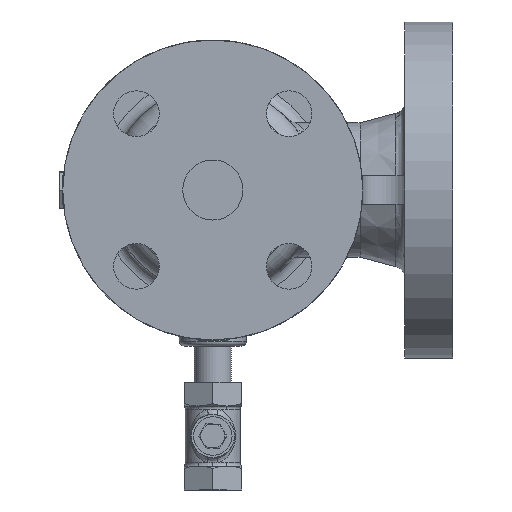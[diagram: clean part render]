
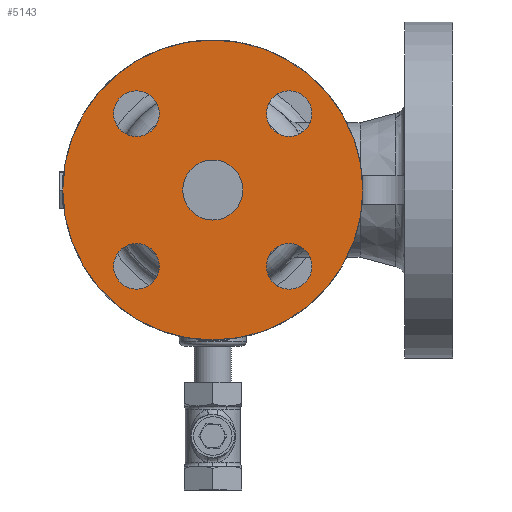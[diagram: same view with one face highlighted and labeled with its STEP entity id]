
A CAD part, front view. The second image highlights one B-rep face of the part: STEP entity #5143.
In plain terms, the highlighted planar face has unit normal (0, -1, 0).
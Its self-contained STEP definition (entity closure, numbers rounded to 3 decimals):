
#141 = ORIENTED_EDGE ( 'NONE', *, *, #7094, .F. ) ;
#226 = DIRECTION ( 'NONE',  ( 0., -1., 0. ) ) ;
#338 = CIRCLE ( 'NONE', #3180, 62.5 ) ;
#359 = CARTESIAN_POINT ( 'NONE',  ( 31.82, -100., 31.82 ) ) ;
#488 = AXIS2_PLACEMENT_3D ( 'NONE', #2449, #11906, #9716 ) ;
#551 = ORIENTED_EDGE ( 'NONE', *, *, #2672, .F. ) ;
#707 = DIRECTION ( 'NONE',  ( 0., -1., 0. ) ) ;
#737 = CIRCLE ( 'NONE', #2473, 9.5 ) ;
#746 = EDGE_CURVE ( 'NONE', #2275, #4251, #6073, .T. ) ;
#807 = AXIS2_PLACEMENT_3D ( 'NONE', #1561, #1624, #2651 ) ;
#1016 = DIRECTION ( 'NONE',  ( 0., -1., 0. ) ) ;
#1090 = EDGE_CURVE ( 'NONE', #7789, #2308, #9557, .T. ) ;
#1098 = VERTEX_POINT ( 'NONE', #10050 ) ;
#1355 = ORIENTED_EDGE ( 'NONE', *, *, #7432, .F. ) ;
#1561 = CARTESIAN_POINT ( 'NONE',  ( 0., -100., 0. ) ) ;
#1624 = DIRECTION ( 'NONE',  ( 0., 1., 0. ) ) ;
#1716 = DIRECTION ( 'NONE',  ( 0., 1., 0. ) ) ;
#2069 = PLANE ( 'NONE',  #6334 ) ;
#2110 = VERTEX_POINT ( 'NONE', #9710 ) ;
#2272 = FACE_BOUND ( 'NONE', #3418, .T. ) ;
#2275 = VERTEX_POINT ( 'NONE', #6092 ) ;
#2308 = VERTEX_POINT ( 'NONE', #3000 ) ;
#2449 = CARTESIAN_POINT ( 'NONE',  ( -31.82, -100., 31.82 ) ) ;
#2473 = AXIS2_PLACEMENT_3D ( 'NONE', #5942, #11126, #7171 ) ;
#2534 = DIRECTION ( 'NONE',  ( 0., 0., -1. ) ) ;
#2574 = EDGE_LOOP ( 'NONE', ( #1355, #11741 ) ) ;
#2651 = DIRECTION ( 'NONE',  ( -1., 0., 0. ) ) ;
#2672 = EDGE_CURVE ( 'NONE', #5066, #7368, #11122, .T. ) ;
#2761 = DIRECTION ( 'NONE',  ( 1., 0., 0. ) ) ;
#2842 = AXIS2_PLACEMENT_3D ( 'NONE', #10394, #13545, #10463 ) ;
#3000 = CARTESIAN_POINT ( 'NONE',  ( 62.5, -100., 0. ) ) ;
#3180 = AXIS2_PLACEMENT_3D ( 'NONE', #12066, #1716, #3982 ) ;
#3265 = DIRECTION ( 'NONE',  ( 1., 0., 0. ) ) ;
#3367 = FACE_BOUND ( 'NONE', #5480, .T. ) ;
#3403 = ORIENTED_EDGE ( 'NONE', *, *, #5277, .F. ) ;
#3418 = EDGE_LOOP ( 'NONE', ( #9641, #7874 ) ) ;
#3487 = ORIENTED_EDGE ( 'NONE', *, *, #11525, .F. ) ;
#3528 = CARTESIAN_POINT ( 'NONE',  ( 41.32, -100., 31.82 ) ) ;
#3774 = CARTESIAN_POINT ( 'NONE',  ( -12.5, -100., 0. ) ) ;
#3827 = EDGE_CURVE ( 'NONE', #4251, #2275, #10697, .T. ) ;
#3982 = DIRECTION ( 'NONE',  ( -1., 0., 0. ) ) ;
#4092 = CARTESIAN_POINT ( 'NONE',  ( -31.82, -100., 31.82 ) ) ;
#4251 = VERTEX_POINT ( 'NONE', #3774 ) ;
#4337 = DIRECTION ( 'NONE',  ( 1., 0., 0. ) ) ;
#4368 = CIRCLE ( 'NONE', #5913, 9.5 ) ;
#4574 = VERTEX_POINT ( 'NONE', #11359 ) ;
#4615 = CIRCLE ( 'NONE', #5944, 9.5 ) ;
#4889 = DIRECTION ( 'NONE',  ( 1., 0., 0. ) ) ;
#5066 = VERTEX_POINT ( 'NONE', #8109 ) ;
#5143 = ADVANCED_FACE ( 'NONE', ( #8571, #12743, #7288, #3367, #2272, #9600 ), #2069, .T. ) ;
#5277 = EDGE_CURVE ( 'NONE', #6285, #11695, #4368, .T. ) ;
#5479 = EDGE_LOOP ( 'NONE', ( #6681, #13534 ) ) ;
#5480 = EDGE_LOOP ( 'NONE', ( #141, #3487 ) ) ;
#5884 = AXIS2_PLACEMENT_3D ( 'NONE', #7155, #7090, #2761 ) ;
#5913 = AXIS2_PLACEMENT_3D ( 'NONE', #359, #9873, #10969 ) ;
#5942 = CARTESIAN_POINT ( 'NONE',  ( 31.82, -100., -31.82 ) ) ;
#5944 = AXIS2_PLACEMENT_3D ( 'NONE', #8563, #7607, #12672 ) ;
#6073 = CIRCLE ( 'NONE', #6949, 12.5 ) ;
#6092 = CARTESIAN_POINT ( 'NONE',  ( 12.5, -100., 0. ) ) ;
#6285 = VERTEX_POINT ( 'NONE', #3528 ) ;
#6334 = AXIS2_PLACEMENT_3D ( 'NONE', #12545, #226, #4337 ) ;
#6611 = EDGE_CURVE ( 'NONE', #11695, #6285, #6839, .T. ) ;
#6681 = ORIENTED_EDGE ( 'NONE', *, *, #1090, .F. ) ;
#6839 = CIRCLE ( 'NONE', #9887, 9.5 ) ;
#6945 = CARTESIAN_POINT ( 'NONE',  ( 0., -100., 0. ) ) ;
#6949 = AXIS2_PLACEMENT_3D ( 'NONE', #6945, #707, #4889 ) ;
#7068 = VERTEX_POINT ( 'NONE', #12923 ) ;
#7090 = DIRECTION ( 'NONE',  ( 0., -1., 0. ) ) ;
#7094 = EDGE_CURVE ( 'NONE', #2110, #7068, #12946, .T. ) ;
#7155 = CARTESIAN_POINT ( 'NONE',  ( 0., -100., 0. ) ) ;
#7171 = DIRECTION ( 'NONE',  ( -1., 0., 0. ) ) ;
#7288 = FACE_BOUND ( 'NONE', #2574, .T. ) ;
#7368 = VERTEX_POINT ( 'NONE', #9500 ) ;
#7432 = EDGE_CURVE ( 'NONE', #4574, #1098, #10497, .T. ) ;
#7452 = ORIENTED_EDGE ( 'NONE', *, *, #11873, .F. ) ;
#7562 = ORIENTED_EDGE ( 'NONE', *, *, #6611, .F. ) ;
#7607 = DIRECTION ( 'NONE',  ( 0., -1., 0. ) ) ;
#7789 = VERTEX_POINT ( 'NONE', #9938 ) ;
#7874 = ORIENTED_EDGE ( 'NONE', *, *, #746, .F. ) ;
#7975 = DIRECTION ( 'NONE',  ( 0., -1., 0. ) ) ;
#8109 = CARTESIAN_POINT ( 'NONE',  ( 22.32, -100., -31.82 ) ) ;
#8119 = CARTESIAN_POINT ( 'NONE',  ( 31.82, -100., -31.82 ) ) ;
#8563 = CARTESIAN_POINT ( 'NONE',  ( -31.82, -100., -31.82 ) ) ;
#8571 = FACE_BOUND ( 'NONE', #8693, .T. ) ;
#8693 = EDGE_LOOP ( 'NONE', ( #3403, #7562 ) ) ;
#8700 = EDGE_CURVE ( 'NONE', #1098, #4574, #4615, .T. ) ;
#9500 = CARTESIAN_POINT ( 'NONE',  ( 41.32, -100., -31.82 ) ) ;
#9557 = CIRCLE ( 'NONE', #807, 62.5 ) ;
#9600 = FACE_OUTER_BOUND ( 'NONE', #5479, .T. ) ;
#9641 = ORIENTED_EDGE ( 'NONE', *, *, #3827, .F. ) ;
#9710 = CARTESIAN_POINT ( 'NONE',  ( -22.32, -100., 31.82 ) ) ;
#9716 = DIRECTION ( 'NONE',  ( 1., 0., 0. ) ) ;
#9873 = DIRECTION ( 'NONE',  ( 0., -1., 0. ) ) ;
#9887 = AXIS2_PLACEMENT_3D ( 'NONE', #11992, #11918, #2534 ) ;
#9938 = CARTESIAN_POINT ( 'NONE',  ( -62.5, -100., 0. ) ) ;
#10031 = AXIS2_PLACEMENT_3D ( 'NONE', #8119, #7975, #10035 ) ;
#10035 = DIRECTION ( 'NONE',  ( -1., 0., 0. ) ) ;
#10050 = CARTESIAN_POINT ( 'NONE',  ( -41.32, -100., -31.82 ) ) ;
#10394 = CARTESIAN_POINT ( 'NONE',  ( -31.82, -100., -31.82 ) ) ;
#10463 = DIRECTION ( 'NONE',  ( 0., 0., 1. ) ) ;
#10497 = CIRCLE ( 'NONE', #2842, 9.5 ) ;
#10697 = CIRCLE ( 'NONE', #5884, 12.5 ) ;
#10969 = DIRECTION ( 'NONE',  ( 0., 0., -1. ) ) ;
#11122 = CIRCLE ( 'NONE', #10031, 9.5 ) ;
#11126 = DIRECTION ( 'NONE',  ( 0., -1., 0. ) ) ;
#11302 = AXIS2_PLACEMENT_3D ( 'NONE', #4092, #1016, #3265 ) ;
#11359 = CARTESIAN_POINT ( 'NONE',  ( -22.32, -100., -31.82 ) ) ;
#11525 = EDGE_CURVE ( 'NONE', #7068, #2110, #12822, .T. ) ;
#11695 = VERTEX_POINT ( 'NONE', #12973 ) ;
#11741 = ORIENTED_EDGE ( 'NONE', *, *, #8700, .F. ) ;
#11873 = EDGE_CURVE ( 'NONE', #7368, #5066, #737, .T. ) ;
#11906 = DIRECTION ( 'NONE',  ( 0., -1., 0. ) ) ;
#11918 = DIRECTION ( 'NONE',  ( 0., -1., 0. ) ) ;
#11992 = CARTESIAN_POINT ( 'NONE',  ( 31.82, -100., 31.82 ) ) ;
#12066 = CARTESIAN_POINT ( 'NONE',  ( 0., -100., 0. ) ) ;
#12545 = CARTESIAN_POINT ( 'NONE',  ( -62.5, -100., 0. ) ) ;
#12672 = DIRECTION ( 'NONE',  ( 0., 0., 1. ) ) ;
#12743 = FACE_BOUND ( 'NONE', #12793, .T. ) ;
#12793 = EDGE_LOOP ( 'NONE', ( #7452, #551 ) ) ;
#12822 = CIRCLE ( 'NONE', #11302, 9.5 ) ;
#12923 = CARTESIAN_POINT ( 'NONE',  ( -41.32, -100., 31.82 ) ) ;
#12946 = CIRCLE ( 'NONE', #488, 9.5 ) ;
#12973 = CARTESIAN_POINT ( 'NONE',  ( 22.32, -100., 31.82 ) ) ;
#13384 = EDGE_CURVE ( 'NONE', #2308, #7789, #338, .T. ) ;
#13534 = ORIENTED_EDGE ( 'NONE', *, *, #13384, .F. ) ;
#13545 = DIRECTION ( 'NONE',  ( 0., -1., 0. ) ) ;
